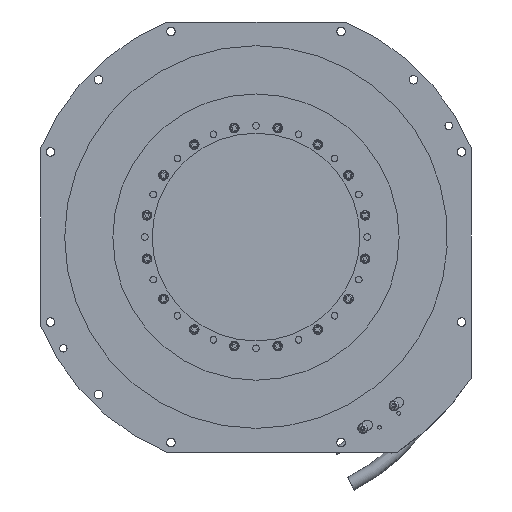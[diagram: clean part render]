
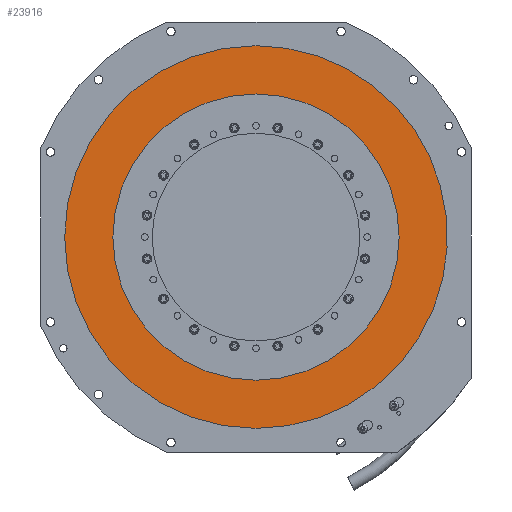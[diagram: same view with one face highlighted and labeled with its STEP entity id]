
A CAD part, front view. The second image highlights one B-rep face of the part: STEP entity #23916.
In plain terms, the highlighted planar face has unit normal (0, -1, 0).
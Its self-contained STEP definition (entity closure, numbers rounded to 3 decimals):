
#201 = EDGE_CURVE ( 'NONE', #32744, #3076, #25333, .T. ) ;
#708 = CARTESIAN_POINT ( 'NONE',  ( 0., -17.2, 96.5 ) ) ;
#2269 = EDGE_CURVE ( 'NONE', #10930, #29997, #19998, .T. ) ;
#2802 = CARTESIAN_POINT ( 'NONE',  ( 96.05, -17.2, -86.113 ) ) ;
#3076 = VERTEX_POINT ( 'NONE', #2802 ) ;
#3665 = ORIENTED_EDGE ( 'NONE', *, *, #23890, .F. ) ;
#3730 = DIRECTION ( 'NONE',  ( 0., -1., 0. ) ) ;
#3874 = DIRECTION ( 'NONE',  ( 0., 0., 1. ) ) ;
#4526 = DIRECTION ( 'NONE',  ( -0.658, 0., -0.753 ) ) ;
#4551 = CARTESIAN_POINT ( 'NONE',  ( 0., -17.2, 0. ) ) ;
#4555 = AXIS2_PLACEMENT_3D ( 'NONE', #4551, #19782, #33159 ) ;
#4754 = AXIS2_PLACEMENT_3D ( 'NONE', #29813, #24147, #3874 ) ;
#4761 = PLANE ( 'NONE',  #8150 ) ;
#5209 = ORIENTED_EDGE ( 'NONE', *, *, #8985, .T. ) ;
#5817 = CARTESIAN_POINT ( 'NONE',  ( 0., -17.2, 0. ) ) ;
#7028 = DIRECTION ( 'NONE',  ( 0., -1., 0. ) ) ;
#8150 = AXIS2_PLACEMENT_3D ( 'NONE', #25255, #15159, #22772 ) ;
#8423 = DIRECTION ( 'NONE',  ( 0., -1., 0. ) ) ;
#8985 = EDGE_CURVE ( 'NONE', #20491, #32744, #24079, .T. ) ;
#9185 = ORIENTED_EDGE ( 'NONE', *, *, #23929, .F. ) ;
#10027 = CARTESIAN_POINT ( 'NONE',  ( 0., -17.2, 129. ) ) ;
#10528 = AXIS2_PLACEMENT_3D ( 'NONE', #19753, #7028, #25037 ) ;
#10930 = VERTEX_POINT ( 'NONE', #708 ) ;
#13121 = EDGE_LOOP ( 'NONE', ( #24987, #9185 ) ) ;
#14525 = ORIENTED_EDGE ( 'NONE', *, *, #201, .T. ) ;
#14746 = AXIS2_PLACEMENT_3D ( 'NONE', #28988, #3730, #23999 ) ;
#15159 = DIRECTION ( 'NONE',  ( 0., 1., 0. ) ) ;
#16498 = CARTESIAN_POINT ( 'NONE',  ( 0., -17.2, -96.5 ) ) ;
#17411 = CARTESIAN_POINT ( 'NONE',  ( 110.431, -17.2, -69.666 ) ) ;
#18166 = EDGE_CURVE ( 'NONE', #19092, #20491, #25113, .T. ) ;
#19092 = VERTEX_POINT ( 'NONE', #29525 ) ;
#19143 = ORIENTED_EDGE ( 'NONE', *, *, #18166, .T. ) ;
#19753 = CARTESIAN_POINT ( 'NONE',  ( 0., -17.2, 0. ) ) ;
#19782 = DIRECTION ( 'NONE',  ( 0., -1., 0. ) ) ;
#19998 = CIRCLE ( 'NONE', #4555, 96.5 ) ;
#20092 = FACE_OUTER_BOUND ( 'NONE', #21108, .T. ) ;
#20491 = VERTEX_POINT ( 'NONE', #10027 ) ;
#21108 = EDGE_LOOP ( 'NONE', ( #3665, #19143, #5209, #14525 ) ) ;
#21123 = CARTESIAN_POINT ( 'NONE',  ( 0., -17.2, -129. ) ) ;
#22772 = DIRECTION ( 'NONE',  ( 0., 0., -1. ) ) ;
#23691 = FACE_BOUND ( 'NONE', #13121, .T. ) ;
#23890 = EDGE_CURVE ( 'NONE', #19092, #3076, #27766, .T. ) ;
#23916 = ADVANCED_FACE ( 'NONE', ( #23691, #20092 ), #4761, .F. ) ;
#23929 = EDGE_CURVE ( 'NONE', #29997, #10930, #31860, .T. ) ;
#23999 = DIRECTION ( 'NONE',  ( 0., 0., 1. ) ) ;
#24079 = CIRCLE ( 'NONE', #14746, 129. ) ;
#24147 = DIRECTION ( 'NONE',  ( 0., -1., 0. ) ) ;
#24987 = ORIENTED_EDGE ( 'NONE', *, *, #2269, .F. ) ;
#25037 = DIRECTION ( 'NONE',  ( 0., 0., 1. ) ) ;
#25113 = CIRCLE ( 'NONE', #4754, 129. ) ;
#25255 = CARTESIAN_POINT ( 'NONE',  ( -96.5, -17.2, 0. ) ) ;
#25333 = CIRCLE ( 'NONE', #26093, 129. ) ;
#26093 = AXIS2_PLACEMENT_3D ( 'NONE', #5817, #8423, #26445 ) ;
#26445 = DIRECTION ( 'NONE',  ( 0., 0., 1. ) ) ;
#27766 = LINE ( 'NONE', #17411, #28576 ) ;
#28576 = VECTOR ( 'NONE', #4526, 1000. ) ;
#28988 = CARTESIAN_POINT ( 'NONE',  ( 0., -17.2, 0. ) ) ;
#29525 = CARTESIAN_POINT ( 'NONE',  ( 98.16, -17.2, -83.699 ) ) ;
#29813 = CARTESIAN_POINT ( 'NONE',  ( 0., -17.2, 0. ) ) ;
#29997 = VERTEX_POINT ( 'NONE', #16498 ) ;
#31860 = CIRCLE ( 'NONE', #10528, 96.5 ) ;
#32744 = VERTEX_POINT ( 'NONE', #21123 ) ;
#33159 = DIRECTION ( 'NONE',  ( 0., 0., 1. ) ) ;
